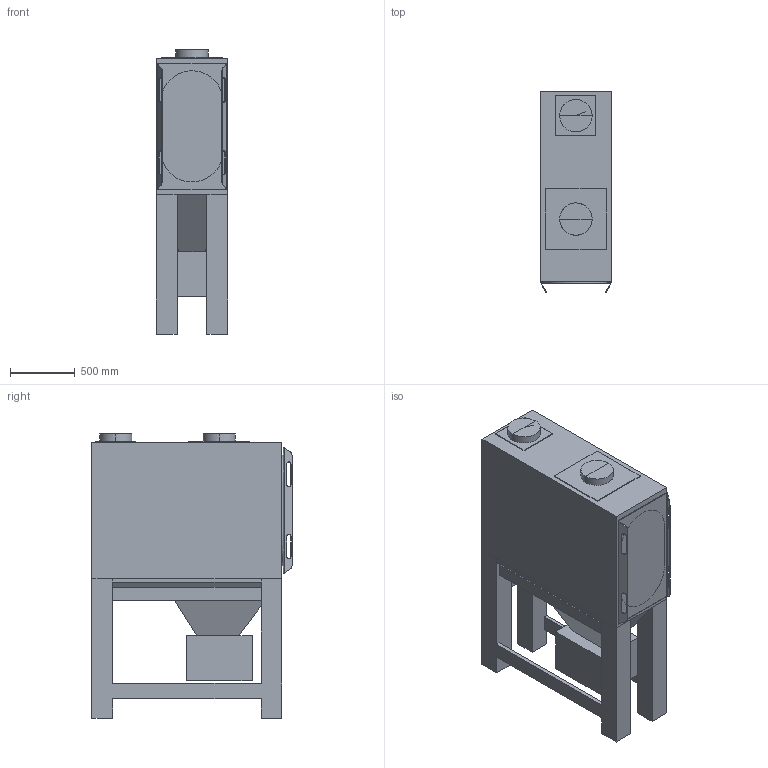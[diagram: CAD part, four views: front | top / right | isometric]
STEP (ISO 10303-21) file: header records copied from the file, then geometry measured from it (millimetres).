
FILE_DESCRIPTION(/* description */ ('Generated from Alias Stage'),/* implementation_level */ '2;1');
FILE_NAME(/* name */ 'CFE2 A',/* time_stamp */ '2016-11-30T13:17:01+01:00',/* author */ (''),/* organization */ ('Autodesk Alias'),/* preprocessor_version */ 'ST-DEVELOPER v11',/* originating_system */ 'Autodesk OpenModel 2016',/* authorisation */ '');
FILE_SCHEMA (('AUTOMOTIVE_DESIGN { 1 2 10303 214 1 1 1 1 }'));
Length unit declared in the file: millimetre
Products named in the file (1): CFE2 A
Bounding box: 550 x 1549.28 x 2200 mm (x, y, z)
Volume: 1137600300.8 mm3; surface area: 12191162.2 mm2
Topology: 1 solids, 1 shells, 128 faces, 354 edges, 228 vertices
Faces by surface type: bspline 128
Entity records: 5071 total; most frequent: CARTESIAN_POINT 3352, ORIENTED_EDGE 700, EDGE_CURVE 350, VERTEX_POINT 228, EDGE_LOOP 144, FACE_OUTER_BOUND 128, ADVANCED_FACE 128, FACE_BOUND 16
